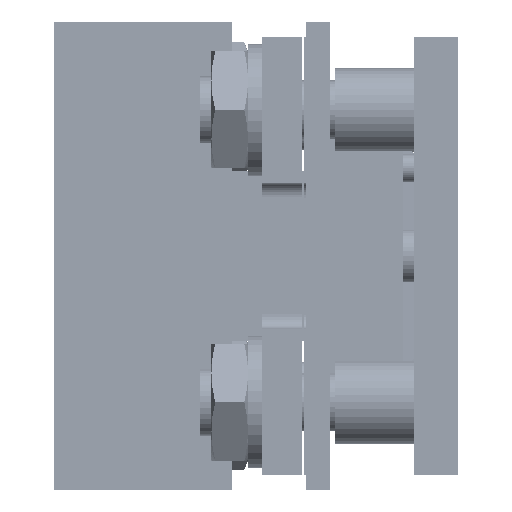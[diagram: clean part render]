
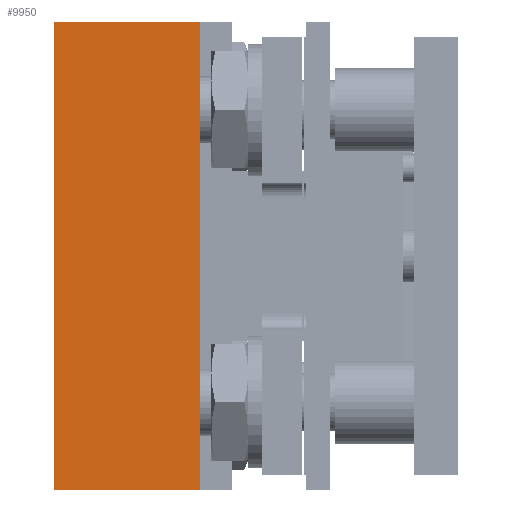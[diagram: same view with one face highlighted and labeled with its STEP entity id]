
A CAD part, left-side view. The second image highlights one B-rep face of the part: STEP entity #9950.
In plain terms, the highlighted planar face has unit normal (-1, 0, 0).
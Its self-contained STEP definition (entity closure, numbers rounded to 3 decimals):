
#324 = CARTESIAN_POINT ( 'NONE',  ( -32.6, 2.2, 16. ) ) ;
#4082 = EDGE_CURVE ( 'NONE', #48135, #63816, #33006, .T. ) ;
#6747 = VERTEX_POINT ( 'NONE', #12810 ) ;
#8074 = ORIENTED_EDGE ( 'NONE', *, *, #63359, .F. ) ;
#8168 = CARTESIAN_POINT ( 'NONE',  ( -32.6, 12.18, -16. ) ) ;
#8810 = LINE ( 'NONE', #324, #35125 ) ;
#9950 = ADVANCED_FACE ( 'NONE', ( #51908 ), #48086, .F. ) ;
#10394 = CARTESIAN_POINT ( 'NONE',  ( -32.6, 2.2, 16. ) ) ;
#10525 = EDGE_LOOP ( 'NONE', ( #32427, #32192, #48972, #8074 ) ) ;
#12457 = VECTOR ( 'NONE', #13822, 1000. ) ;
#12810 = CARTESIAN_POINT ( 'NONE',  ( -32.6, 2.2, 16. ) ) ;
#13822 = DIRECTION ( 'NONE',  ( 0., 0., 1. ) ) ;
#16626 = DIRECTION ( 'NONE',  ( 1., 0., 0. ) ) ;
#18977 = VERTEX_POINT ( 'NONE', #39252 ) ;
#22014 = VECTOR ( 'NONE', #47158, 1000. ) ;
#23659 = LINE ( 'NONE', #10394, #22014 ) ;
#23678 = EDGE_CURVE ( 'NONE', #6747, #63816, #23659, .T. ) ;
#31354 = VECTOR ( 'NONE', #36663, 1000. ) ;
#32192 = ORIENTED_EDGE ( 'NONE', *, *, #23678, .F. ) ;
#32427 = ORIENTED_EDGE ( 'NONE', *, *, #4082, .T. ) ;
#33006 = LINE ( 'NONE', #62859, #31354 ) ;
#33059 = CARTESIAN_POINT ( 'NONE',  ( -32.6, 2.2, -16. ) ) ;
#35125 = VECTOR ( 'NONE', #58107, 1000. ) ;
#35826 = EDGE_CURVE ( 'NONE', #18977, #6747, #8810, .T. ) ;
#36663 = DIRECTION ( 'NONE',  ( 0., -1., 0. ) ) ;
#39252 = CARTESIAN_POINT ( 'NONE',  ( -32.6, 12.18, 16. ) ) ;
#40381 = LINE ( 'NONE', #61141, #12457 ) ;
#47158 = DIRECTION ( 'NONE',  ( 0., 0., -1. ) ) ;
#48086 = PLANE ( 'NONE',  #53459 ) ;
#48135 = VERTEX_POINT ( 'NONE', #8168 ) ;
#48972 = ORIENTED_EDGE ( 'NONE', *, *, #35826, .F. ) ;
#51908 = FACE_OUTER_BOUND ( 'NONE', #10525, .T. ) ;
#53449 = DIRECTION ( 'NONE',  ( 0., 0., -1. ) ) ;
#53459 = AXIS2_PLACEMENT_3D ( 'NONE', #63728, #16626, #53449 ) ;
#58107 = DIRECTION ( 'NONE',  ( 0., -1., 0. ) ) ;
#61141 = CARTESIAN_POINT ( 'NONE',  ( -32.6, 12.18, -16. ) ) ;
#62859 = CARTESIAN_POINT ( 'NONE',  ( -32.6, 2.2, -16. ) ) ;
#63359 = EDGE_CURVE ( 'NONE', #48135, #18977, #40381, .T. ) ;
#63728 = CARTESIAN_POINT ( 'NONE',  ( -32.6, 2.2, 16. ) ) ;
#63816 = VERTEX_POINT ( 'NONE', #33059 ) ;
